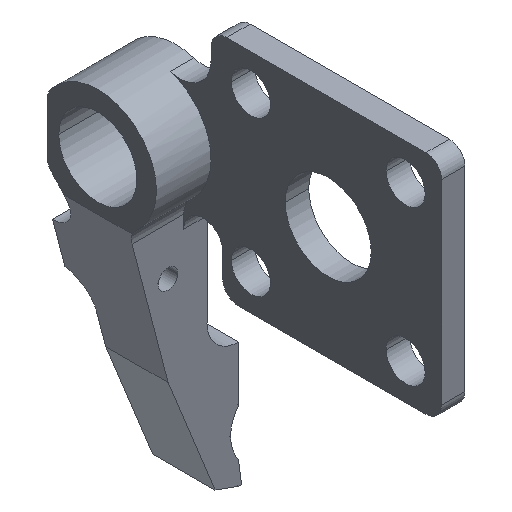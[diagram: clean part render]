
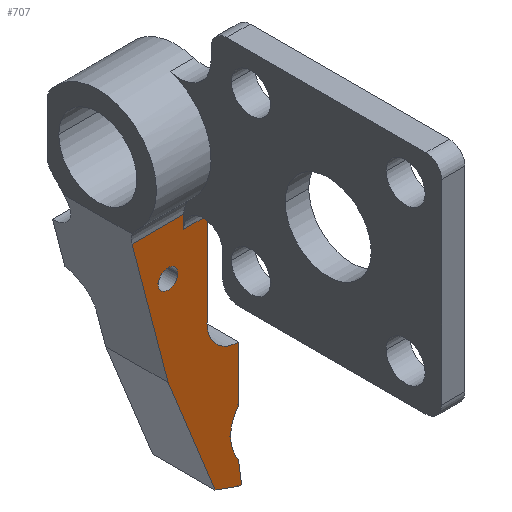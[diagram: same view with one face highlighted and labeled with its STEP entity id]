
A CAD part, isometric view. The second image highlights one B-rep face of the part: STEP entity #707.
In plain terms, the highlighted planar face has unit normal (0, -1, 0).
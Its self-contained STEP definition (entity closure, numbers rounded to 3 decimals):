
#5 = ORIENTED_EDGE ( 'NONE', *, *, #1491, .T. ) ;
#12 = VECTOR ( 'NONE', #1097, 1000. ) ;
#18 = DIRECTION ( 'NONE',  ( 1., 0., 0. ) ) ;
#26 = DIRECTION ( 'NONE',  ( 1., 0., 0. ) ) ;
#37 = CARTESIAN_POINT ( 'NONE',  ( -20.25, -4., -14. ) ) ;
#39 = AXIS2_PLACEMENT_3D ( 'NONE', #76, #736, #1272 ) ;
#42 = EDGE_LOOP ( 'NONE', ( #351, #222 ) ) ;
#52 = LINE ( 'NONE', #361, #1341 ) ;
#58 = CARTESIAN_POINT ( 'NONE',  ( -14., -4., -9.5 ) ) ;
#75 = VECTOR ( 'NONE', #114, 1000. ) ;
#76 = CARTESIAN_POINT ( 'NONE',  ( -10., -4., -21.5 ) ) ;
#88 = VERTEX_POINT ( 'NONE', #891 ) ;
#114 = DIRECTION ( 'NONE',  ( -0.939, 0., 0.343 ) ) ;
#136 = DIRECTION ( 'NONE',  ( 0., 1., 0. ) ) ;
#144 = EDGE_CURVE ( 'NONE', #537, #984, #1571, .T. ) ;
#161 = LINE ( 'NONE', #1246, #302 ) ;
#163 = CARTESIAN_POINT ( 'NONE',  ( -13., -4., -40.404 ) ) ;
#203 = DIRECTION ( 'NONE',  ( 0., 0., -1. ) ) ;
#208 = CIRCLE ( 'NONE', #839, 5. ) ;
#222 = ORIENTED_EDGE ( 'NONE', *, *, #582, .T. ) ;
#224 = DIRECTION ( 'NONE',  ( 0., 0., 1. ) ) ;
#236 = DIRECTION ( 'NONE',  ( 0.132, 0., -0.991 ) ) ;
#278 = VERTEX_POINT ( 'NONE', #1653 ) ;
#290 = CARTESIAN_POINT ( 'NONE',  ( -24., -4., -25.5 ) ) ;
#297 = PLANE ( 'NONE',  #1736 ) ;
#302 = VECTOR ( 'NONE', #18, 1000. ) ;
#303 = ORIENTED_EDGE ( 'NONE', *, *, #320, .F. ) ;
#308 = CARTESIAN_POINT ( 'NONE',  ( -19., -4., -25.5 ) ) ;
#316 = DIRECTION ( 'NONE',  ( -0.8, 0., 0.6 ) ) ;
#320 = EDGE_CURVE ( 'NONE', #278, #1649, #1565, .T. ) ;
#349 = DIRECTION ( 'NONE',  ( -0.8, 0., 0.6 ) ) ;
#351 = ORIENTED_EDGE ( 'NONE', *, *, #501, .T. ) ;
#361 = CARTESIAN_POINT ( 'NONE',  ( -9.6, -4., -41.5 ) ) ;
#380 = CARTESIAN_POINT ( 'NONE',  ( -10., -4., -32.5 ) ) ;
#391 = VECTOR ( 'NONE', #203, 1000. ) ;
#421 = VERTEX_POINT ( 'NONE', #1450 ) ;
#444 = AXIS2_PLACEMENT_3D ( 'NONE', #821, #136, #681 ) ;
#460 = EDGE_CURVE ( 'NONE', #88, #537, #208, .T. ) ;
#486 = EDGE_LOOP ( 'NONE', ( #905, #5, #639, #999, #1240, #303, #1708, #1116, #623, #790, #1415, #1339, #556 ) ) ;
#501 = EDGE_CURVE ( 'NONE', #1390, #619, #1509, .T. ) ;
#537 = VERTEX_POINT ( 'NONE', #936 ) ;
#544 = EDGE_CURVE ( 'NONE', #1574, #1719, #161, .T. ) ;
#546 = CARTESIAN_POINT ( 'NONE',  ( -17., -4., -9.5 ) ) ;
#556 = ORIENTED_EDGE ( 'NONE', *, *, #1000, .F. ) ;
#582 = EDGE_CURVE ( 'NONE', #619, #1390, #589, .T. ) ;
#589 = CIRCLE ( 'NONE', #668, 1.25 ) ;
#593 = VECTOR ( 'NONE', #1205, 1000. ) ;
#604 = DIRECTION ( 'NONE',  ( -1., 0., 0. ) ) ;
#619 = VERTEX_POINT ( 'NONE', #986 ) ;
#623 = ORIENTED_EDGE ( 'NONE', *, *, #460, .F. ) ;
#638 = CARTESIAN_POINT ( 'NONE',  ( -10., -4., -38.5 ) ) ;
#639 = ORIENTED_EDGE ( 'NONE', *, *, #924, .T. ) ;
#659 = CARTESIAN_POINT ( 'NONE',  ( -23.613, -4., -7.826 ) ) ;
#668 = AXIS2_PLACEMENT_3D ( 'NONE', #857, #708, #26 ) ;
#669 = LINE ( 'NONE', #1202, #1067 ) ;
#681 = DIRECTION ( 'NONE',  ( -1., 0., 0. ) ) ;
#685 = CARTESIAN_POINT ( 'NONE',  ( -6., -4., -35.5 ) ) ;
#694 = EDGE_CURVE ( 'NONE', #1524, #88, #1626, .T. ) ;
#702 = VECTOR ( 'NONE', #1383, 1000. ) ;
#707 = ADVANCED_FACE ( 'NONE', ( #1236, #971 ), #297, .T. ) ;
#708 = DIRECTION ( 'NONE',  ( 0., 1., 0. ) ) ;
#713 = DIRECTION ( 'NONE',  ( 0., -1., 0. ) ) ;
#735 = EDGE_CURVE ( 'NONE', #1270, #1734, #979, .T. ) ;
#736 = DIRECTION ( 'NONE',  ( 0., 1., 0. ) ) ;
#790 = ORIENTED_EDGE ( 'NONE', *, *, #694, .F. ) ;
#821 = CARTESIAN_POINT ( 'NONE',  ( -19., -4., -14. ) ) ;
#825 = DIRECTION ( 'NONE',  ( 0., 0., -1. ) ) ;
#839 = AXIS2_PLACEMENT_3D ( 'NONE', #1182, #1280, #349 ) ;
#857 = CARTESIAN_POINT ( 'NONE',  ( -19., -4., -14. ) ) ;
#881 = CARTESIAN_POINT ( 'NONE',  ( -10., -4., -25.5 ) ) ;
#891 = CARTESIAN_POINT ( 'NONE',  ( -11., -4., -35.5 ) ) ;
#893 = AXIS2_PLACEMENT_3D ( 'NONE', #685, #713, #316 ) ;
#905 = ORIENTED_EDGE ( 'NONE', *, *, #544, .F. ) ;
#924 = EDGE_CURVE ( 'NONE', #421, #939, #1148, .T. ) ;
#925 = CARTESIAN_POINT ( 'NONE',  ( -10., -4., -41.5 ) ) ;
#936 = CARTESIAN_POINT ( 'NONE',  ( -10., -4., -38.5 ) ) ;
#939 = VERTEX_POINT ( 'NONE', #659 ) ;
#942 = DIRECTION ( 'NONE',  ( 0., 0., -1. ) ) ;
#954 = VECTOR ( 'NONE', #224, 1000. ) ;
#964 = LINE ( 'NONE', #163, #12 ) ;
#971 = FACE_OUTER_BOUND ( 'NONE', #486, .T. ) ;
#979 = CIRCLE ( 'NONE', #39, 4. ) ;
#984 = VERTEX_POINT ( 'NONE', #1178 ) ;
#986 = CARTESIAN_POINT ( 'NONE',  ( -17.75, -4., -14. ) ) ;
#999 = ORIENTED_EDGE ( 'NONE', *, *, #1297, .F. ) ;
#1000 = EDGE_CURVE ( 'NONE', #1719, #1734, #669, .T. ) ;
#1015 = EDGE_CURVE ( 'NONE', #984, #278, #52, .T. ) ;
#1017 = EDGE_CURVE ( 'NONE', #1270, #1524, #1131, .T. ) ;
#1022 = CARTESIAN_POINT ( 'NONE',  ( -17., -4., -7.826 ) ) ;
#1033 = CARTESIAN_POINT ( 'NONE',  ( -17., -4., -9.5 ) ) ;
#1067 = VECTOR ( 'NONE', #942, 1000. ) ;
#1097 = DIRECTION ( 'NONE',  ( -0.373, 0., 0.928 ) ) ;
#1116 = ORIENTED_EDGE ( 'NONE', *, *, #144, .F. ) ;
#1121 = CARTESIAN_POINT ( 'NONE',  ( -14., -4., -21.5 ) ) ;
#1131 = LINE ( 'NONE', #881, #391 ) ;
#1148 = LINE ( 'NONE', #1022, #702 ) ;
#1178 = CARTESIAN_POINT ( 'NONE',  ( -9.6, -4., -41.5 ) ) ;
#1182 = CARTESIAN_POINT ( 'NONE',  ( -6., -4., -35.5 ) ) ;
#1202 = CARTESIAN_POINT ( 'NONE',  ( -14., -4., -9.5 ) ) ;
#1205 = DIRECTION ( 'NONE',  ( -0.253, 0., 0.968 ) ) ;
#1236 = FACE_BOUND ( 'NONE', #42, .T. ) ;
#1240 = ORIENTED_EDGE ( 'NONE', *, *, #1248, .F. ) ;
#1242 = DIRECTION ( 'NONE',  ( 0., -1., 0. ) ) ;
#1246 = CARTESIAN_POINT ( 'NONE',  ( -17., -4., -9.5 ) ) ;
#1248 = EDGE_CURVE ( 'NONE', #1649, #1442, #964, .T. ) ;
#1270 = VERTEX_POINT ( 'NONE', #1353 ) ;
#1272 = DIRECTION ( 'NONE',  ( 0., 0., -1. ) ) ;
#1280 = DIRECTION ( 'NONE',  ( 0., -1., 0. ) ) ;
#1297 = EDGE_CURVE ( 'NONE', #1442, #939, #1638, .T. ) ;
#1339 = ORIENTED_EDGE ( 'NONE', *, *, #735, .T. ) ;
#1341 = VECTOR ( 'NONE', #604, 1000. ) ;
#1353 = CARTESIAN_POINT ( 'NONE',  ( -10., -4., -25.5 ) ) ;
#1383 = DIRECTION ( 'NONE',  ( -1., 0., 0. ) ) ;
#1390 = VERTEX_POINT ( 'NONE', #37 ) ;
#1399 = CARTESIAN_POINT ( 'NONE',  ( -19., -4., -25.5 ) ) ;
#1415 = ORIENTED_EDGE ( 'NONE', *, *, #1017, .F. ) ;
#1442 = VERTEX_POINT ( 'NONE', #1399 ) ;
#1450 = CARTESIAN_POINT ( 'NONE',  ( -17., -4., -7.826 ) ) ;
#1491 = EDGE_CURVE ( 'NONE', #1574, #421, #1589, .T. ) ;
#1509 = CIRCLE ( 'NONE', #444, 1.25 ) ;
#1524 = VERTEX_POINT ( 'NONE', #380 ) ;
#1535 = VECTOR ( 'NONE', #236, 1000. ) ;
#1565 = LINE ( 'NONE', #925, #75 ) ;
#1571 = LINE ( 'NONE', #638, #1535 ) ;
#1574 = VERTEX_POINT ( 'NONE', #546 ) ;
#1589 = LINE ( 'NONE', #1033, #954 ) ;
#1626 = CIRCLE ( 'NONE', #893, 5. ) ;
#1638 = LINE ( 'NONE', #308, #593 ) ;
#1649 = VERTEX_POINT ( 'NONE', #1741 ) ;
#1653 = CARTESIAN_POINT ( 'NONE',  ( -10., -4., -41.5 ) ) ;
#1708 = ORIENTED_EDGE ( 'NONE', *, *, #1015, .F. ) ;
#1719 = VERTEX_POINT ( 'NONE', #58 ) ;
#1734 = VERTEX_POINT ( 'NONE', #1121 ) ;
#1736 = AXIS2_PLACEMENT_3D ( 'NONE', #290, #1242, #825 ) ;
#1741 = CARTESIAN_POINT ( 'NONE',  ( -13., -4., -40.404 ) ) ;
